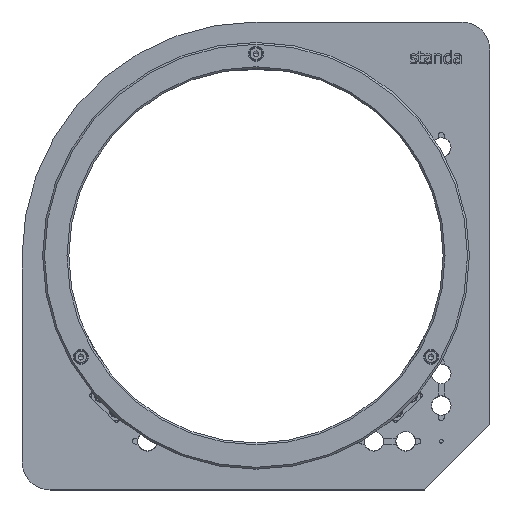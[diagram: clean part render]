
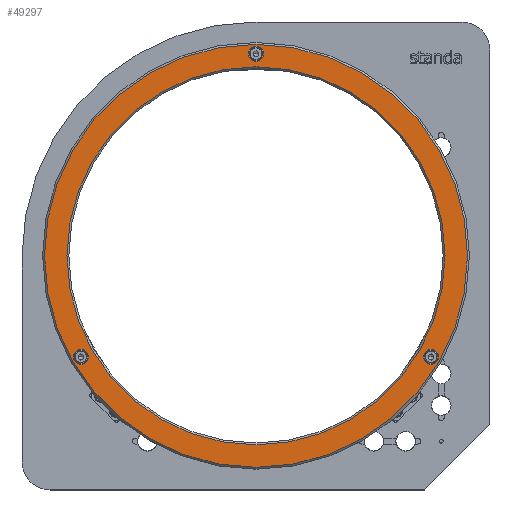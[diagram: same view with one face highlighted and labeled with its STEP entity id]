
A CAD part, top view. The second image highlights one B-rep face of the part: STEP entity #49297.
In plain terms, the highlighted planar face has unit normal (0, 0, 1).
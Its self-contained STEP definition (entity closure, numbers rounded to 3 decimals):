
#15341=CARTESIAN_POINT('',(97.531,-54.,67.));
#15342=VERTEX_POINT('',#15341);
#15351=CARTESIAN_POINT('',(89.531,-54.,67.));
#15352=VERTEX_POINT('',#15351);
#15353=CARTESIAN_POINT('',(93.531,-54.,67.));
#15354=DIRECTION('',(0.0,0.0,-1.0));
#15355=DIRECTION('',(1.0,0.0,0.0));
#15356=AXIS2_PLACEMENT_3D('',#15353,#15354,#15355);
#15357=CIRCLE('',#15356,4.0);
#15358=EDGE_CURVE('',#15352,#15342,#15357,.T.);
#15467=CARTESIAN_POINT('',(4.,108.,67.));
#15468=VERTEX_POINT('',#15467);
#15477=CARTESIAN_POINT('',(-4.,108.,67.));
#15478=VERTEX_POINT('',#15477);
#15479=CARTESIAN_POINT('',(0.,108.,67.));
#15480=DIRECTION('',(0.0,0.0,-1.0));
#15481=DIRECTION('',(1.0,0.0,0.0));
#15482=AXIS2_PLACEMENT_3D('',#15479,#15480,#15481);
#15483=CIRCLE('',#15482,4.0);
#15484=EDGE_CURVE('',#15478,#15468,#15483,.T.);
#15593=CARTESIAN_POINT('',(-89.531,-54.,67.));
#15594=VERTEX_POINT('',#15593);
#15603=CARTESIAN_POINT('',(-97.531,-54.,67.));
#15604=VERTEX_POINT('',#15603);
#15605=CARTESIAN_POINT('',(-93.531,-54.,67.));
#15606=DIRECTION('',(0.0,0.0,-1.0));
#15607=DIRECTION('',(1.0,0.0,0.0));
#15608=AXIS2_PLACEMENT_3D('',#15605,#15606,#15607);
#15609=CIRCLE('',#15608,4.0);
#15610=EDGE_CURVE('',#15604,#15594,#15609,.T.);
#15635=CARTESIAN_POINT('',(113.,0.,67.));
#15636=VERTEX_POINT('',#15635);
#15645=CARTESIAN_POINT('',(-113.,0.,67.));
#15646=VERTEX_POINT('',#15645);
#15647=CARTESIAN_POINT('',(0.,0.,67.));
#15648=DIRECTION('',(0.0,0.0,-1.0));
#15649=DIRECTION('',(1.0,0.0,0.0));
#15650=AXIS2_PLACEMENT_3D('',#15647,#15648,#15649);
#15651=CIRCLE('',#15650,113.);
#15652=EDGE_CURVE('',#15636,#15646,#15651,.T.);
#15719=CARTESIAN_POINT('',(101.,0.,67.));
#15720=VERTEX_POINT('',#15719);
#15728=CARTESIAN_POINT('',(-101.,0.,67.));
#15729=VERTEX_POINT('',#15728);
#15736=CARTESIAN_POINT('',(0.,0.,67.));
#15737=DIRECTION('',(0.0,0.0,1.0));
#15738=DIRECTION('',(1.0,0.0,0.0));
#15739=AXIS2_PLACEMENT_3D('',#15736,#15737,#15738);
#15740=CIRCLE('',#15739,101.0);
#15741=EDGE_CURVE('',#15729,#15720,#15740,.T.);
#49230=CARTESIAN_POINT('',(0.,0.,67.));
#49231=DIRECTION('',(0.0,0.0,1.0));
#49232=DIRECTION('',(1.0,0.0,0.0));
#49233=AXIS2_PLACEMENT_3D('',#49230,#49231,#49232);
#49234=CIRCLE('',#49233,101.0);
#49235=EDGE_CURVE('',#15720,#15729,#49234,.T.);
#49248=CARTESIAN_POINT('',(-100.,0.,67.));
#49249=DIRECTION('',(0.0,0.0,1.0));
#49250=DIRECTION('',(0.0,-1.0,0.0));
#49251=AXIS2_PLACEMENT_3D('',#49248,#49249,#49250);
#49252=PLANE('',#49251);
#49253=CARTESIAN_POINT('',(0.,0.,67.));
#49254=DIRECTION('',(0.0,0.0,-1.0));
#49255=DIRECTION('',(1.0,0.0,0.0));
#49256=AXIS2_PLACEMENT_3D('',#49253,#49254,#49255);
#49257=CIRCLE('',#49256,113.);
#49258=EDGE_CURVE('',#15646,#15636,#49257,.T.);
#49259=ORIENTED_EDGE('',*,*,#49258,.F.);
#49260=ORIENTED_EDGE('',*,*,#15652,.F.);
#49261=EDGE_LOOP('',(#49259,#49260));
#49262=FACE_OUTER_BOUND('',#49261,.T.);
#49263=CARTESIAN_POINT('',(-93.531,-54.,67.));
#49264=DIRECTION('',(0.0,0.0,-1.0));
#49265=DIRECTION('',(1.0,0.0,0.0));
#49266=AXIS2_PLACEMENT_3D('',#49263,#49264,#49265);
#49267=CIRCLE('',#49266,4.0);
#49268=EDGE_CURVE('',#15594,#15604,#49267,.T.);
#49269=ORIENTED_EDGE('',*,*,#49268,.T.);
#49270=ORIENTED_EDGE('',*,*,#15610,.T.);
#49271=EDGE_LOOP('',(#49269,#49270));
#49272=FACE_BOUND('',#49271,.T.);
#49273=CARTESIAN_POINT('',(0.,108.,67.));
#49274=DIRECTION('',(0.0,0.0,-1.0));
#49275=DIRECTION('',(1.0,0.0,0.0));
#49276=AXIS2_PLACEMENT_3D('',#49273,#49274,#49275);
#49277=CIRCLE('',#49276,4.0);
#49278=EDGE_CURVE('',#15468,#15478,#49277,.T.);
#49279=ORIENTED_EDGE('',*,*,#49278,.T.);
#49280=ORIENTED_EDGE('',*,*,#15484,.T.);
#49281=EDGE_LOOP('',(#49279,#49280));
#49282=FACE_BOUND('',#49281,.T.);
#49283=CARTESIAN_POINT('',(93.531,-54.,67.));
#49284=DIRECTION('',(0.0,0.0,-1.0));
#49285=DIRECTION('',(1.0,0.0,0.0));
#49286=AXIS2_PLACEMENT_3D('',#49283,#49284,#49285);
#49287=CIRCLE('',#49286,4.0);
#49288=EDGE_CURVE('',#15342,#15352,#49287,.T.);
#49289=ORIENTED_EDGE('',*,*,#49288,.T.);
#49290=ORIENTED_EDGE('',*,*,#15358,.T.);
#49291=EDGE_LOOP('',(#49289,#49290));
#49292=FACE_BOUND('',#49291,.T.);
#49293=ORIENTED_EDGE('',*,*,#15741,.F.);
#49294=ORIENTED_EDGE('',*,*,#49235,.F.);
#49295=EDGE_LOOP('',(#49293,#49294));
#49296=FACE_BOUND('',#49295,.T.);
#49297=ADVANCED_FACE('',(#49262,#49272,#49282,#49292,#49296),#49252,.T.);
